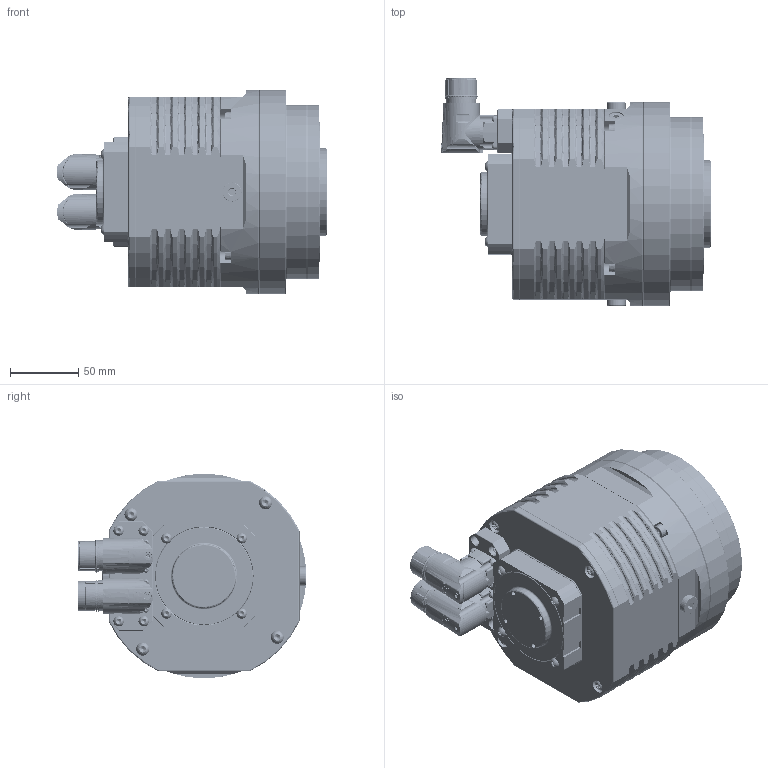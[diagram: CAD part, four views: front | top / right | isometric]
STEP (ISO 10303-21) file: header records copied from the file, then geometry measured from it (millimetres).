
FILE_DESCRIPTION((''),'2;1');
FILE_NAME('UHLOVE_9-0024_04_ASM','2018-04-05T',('polivcakova'),(''),'PRO/ENGINEER BY PARAMETRIC TECHNOLOGY CORPORATION, 2016010','PRO/ENGINEER BY PARAMETRIC TECHNOLOGY CORPORATION, 2016010','');
FILE_SCHEMA(('CONFIG_CONTROL_DESIGN'));
Products named in the file (40): 140-000E-P19-0583-3DMODEL-1_AF0; 9-0007_01_001-2_AF0; SKR_ISO14580-M6X40_TX_AF0; SKR_ISO14580-M6X40_TX_AF1; SKR_ISO14580-M6X40_TX_AF2; SKR_ISO14580-M6X40_TX_AF3; KRUZOK_STN029310-6X10-2_AF0; SKR_DIN7984-M6X10-88A3L_AF0; KRUZOK_STN029310-10X14-2; ZATKA_DIN908-M10X1-56A3L_AF0; ZATKA_DIN908-M10X1-56A3L_AF1; M-058_372_001-4_AF0; SKR_ISO14580-M4X8_10-9_TX_AF0; SKR_ISO14580-M4X8_10-9_TX_AF1; SKR_ISO14580-M4X8_10-9_TX_AF2; 9-0024_00_002-2_AF0; SKR_DIN912-M5X80-88A3L_AF0; SKR_DIN912-M5X80-88A3L_AF1; SKR_DIN912-M5X80-88A3L_AF2; SKR_DIN912-M5X80-88A3L_AF3; 9-0024_00_003-2; SKR_ISO7380-M5X12_TX; 9-0024_00_031-3; 9-0024_00_004-3; PODLOZKA_TESNIACA_4X8X1; SKR_ISO7380-M4X12_TX; HELICOIL_M4_1_5_D; SKR_ISO7380-M4X8_TX; SKR_ISO7380-M4X10_TX; 9-0024_00_051-3; SKR_ISO7380-M2_5X6_TX; 127242_AF0; 124888_AF0; 127325_AF0_ASM; AED_0201_17POL_STIFTE_ASM; BASIS_1_AF0; BASIS_2_AF0; BAUGRUPPE3_AF0_ASM; BED_0201_6-POLIG_STIFT_ASM; UHLOVE_9-0024_04_ASM
Assembly tree (65 placements, depth 4):
  UHLOVE_9-0024_04_ASM
    140-000E-P19-0583-3DMODEL-1_AF0
    9-0007_01_001-2_AF0
    SKR_ISO14580-M6X40_TX_AF0
    SKR_ISO14580-M6X40_TX_AF1
    SKR_ISO14580-M6X40_TX_AF2
    SKR_ISO14580-M6X40_TX_AF3
    KRUZOK_STN029310-6X10-2_AF0
    SKR_DIN7984-M6X10-88A3L_AF0
    KRUZOK_STN029310-10X14-2  x2
    ZATKA_DIN908-M10X1-56A3L_AF0
    ZATKA_DIN908-M10X1-56A3L_AF1
    M-058_372_001-4_AF0
    SKR_ISO14580-M4X8_10-9_TX_AF0
    SKR_ISO14580-M4X8_10-9_TX_AF1
    SKR_ISO14580-M4X8_10-9_TX_AF2
    9-0024_00_002-2_AF0
    SKR_DIN912-M5X80-88A3L_AF0
    SKR_DIN912-M5X80-88A3L_AF1
    SKR_DIN912-M5X80-88A3L_AF2
    SKR_DIN912-M5X80-88A3L_AF3
    9-0024_00_003-2
    SKR_ISO7380-M5X12_TX  x4
    9-0024_00_031-3
    9-0024_00_004-3
    PODLOZKA_TESNIACA_4X8X1  x4
    SKR_ISO7380-M4X12_TX  x4
    HELICOIL_M4_1_5_D  x4
    SKR_ISO7380-M4X8_TX  x4
    SKR_ISO7380-M4X10_TX  x4
    9-0024_00_051-3
    SKR_ISO7380-M2_5X6_TX  x8
    AED_0201_17POL_STIFTE_ASM
      127325_AF0_ASM
        127242_AF0
        124888_AF0
    BED_0201_6-POLIG_STIFT_ASM
      BAUGRUPPE3_AF0_ASM
        BASIS_1_AF0
        BASIS_2_AF0
Bounding box: 197.95 x 167.66 x 150 mm (x, y, z)
Volume: 874619.4 mm3; surface area: 360851.6 mm2
Topology: 61 solids, 189 shells, 5252 faces, 13526 edges, 8620 vertices
Faces by surface type: plane 1972, cylinder 1784, cone 888, torus 348, bspline 172, sphere 82, extrusion 6
Entity records: 160848 total; most frequent: CARTESIAN_POINT 52062, DIRECTION 22876, ORIENTED_EDGE 22098, EDGE_CURVE 11278, AXIS2_PLACEMENT_3D 8609, VERTEX_POINT 7325, VECTOR 5658, LINE 5652
